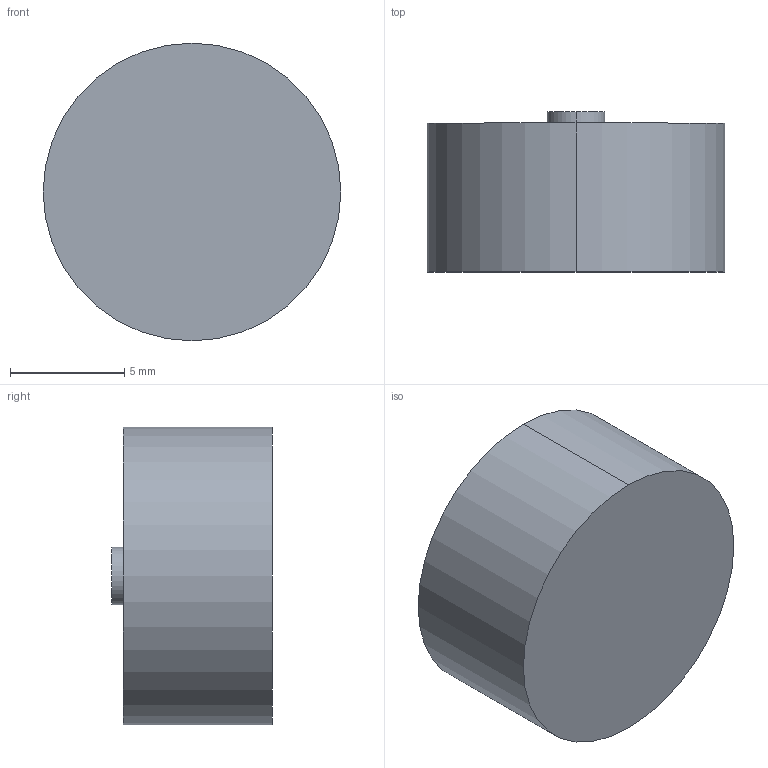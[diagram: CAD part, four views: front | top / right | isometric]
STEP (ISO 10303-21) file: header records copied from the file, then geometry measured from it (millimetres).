
FILE_DESCRIPTION (( 'STEP AP203' ), '1' );
FILE_NAME ('reb5-2kg,5kg.STEP', '2018-03-29T23:17:21', ( '' ), ( '' ), 'SwSTEP 2.0', 'SolidWorks 2016', '' );
FILE_SCHEMA (( 'CONFIG_CONTROL_DESIGN' ));
Length unit declared in the file: millimetre
Products named in the file (1): reb5-2kg,5kg
Bounding box: 13 x 7 x 13 mm (x, y, z)
Volume: 865.2 mm3; surface area: 534.9 mm2
Topology: 1 solids, 1 shells, 7 faces, 12 edges, 8 vertices
Faces by surface type: cylinder 4, plane 3
Entity records: 251 total; most frequent: DIRECTION 36, CARTESIAN_POINT 28, ORIENTED_EDGE 24, AXIS2_PLACEMENT_3D 16, EDGE_CURVE 12, VERTEX_POINT 8, EDGE_LOOP 8, CIRCLE 8
